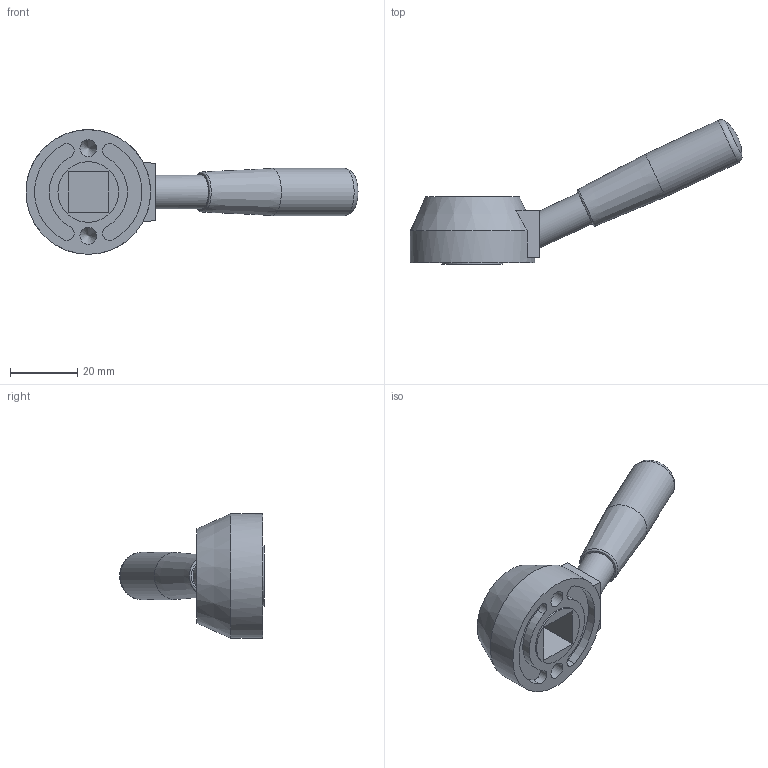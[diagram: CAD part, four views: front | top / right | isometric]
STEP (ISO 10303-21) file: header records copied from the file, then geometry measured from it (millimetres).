
FILE_DESCRIPTION( ( 'STEP AP203' ), '1' );
FILE_NAME( 'C:/Temp/Ganter_Step_05_03_2020/data/2_1/gn_512/gn_512_v/Control lever GN 512-37-V12.stp', '2020-03-05T11:51:43', ( 'License CC BY-ND 4.0' ), ( 'CADENAS' ), ' ', 'PARTsolutions', ' ' );
FILE_SCHEMA( ( 'CONFIG_CONTROL_DESIGN' ) );
Length unit declared in the file: millimetre
Products named in the file (1): _Control lever GN 512-37-V12
Bounding box: 98.59 x 42.95 x 37 mm (x, y, z)
Volume: 23654.5 mm3; surface area: 8435.6 mm2
Topology: 1 solids, 1 shells, 39 faces, 88 edges, 57 vertices
Faces by surface type: plane 17, cylinder 15, cone 4, torus 2, sphere 1
Full cylindrical faces by diameter (mm): 5 x2, 10 x1, 14 x1, 18 x1, 21 x1, 37 x1
Entity records: 1032 total; most frequent: DIRECTION 182, CARTESIAN_POINT 168, ORIENTED_EDGE 136, AXIS2_PLACEMENT_3D 76, EDGE_CURVE 68, EDGE_LOOP 59, VERTEX_POINT 54, FACE_OUTER_BOUND 48
